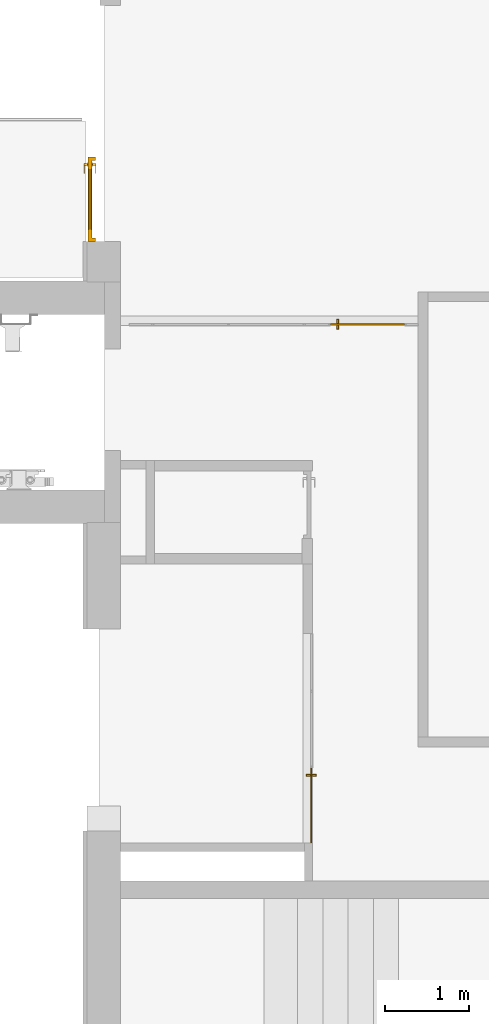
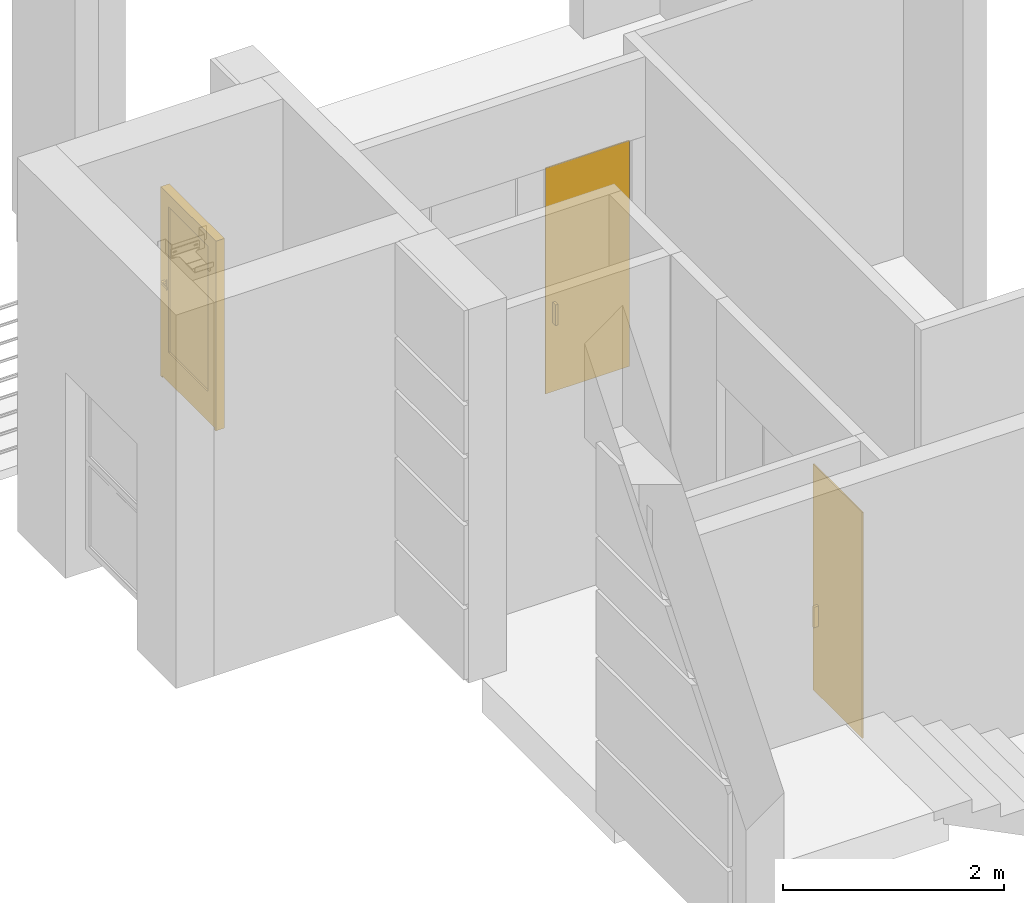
# One storey, part 8 of 15: 3 doors, 2 elements without a shape of their own.
"""IFC2X3 building model written with IfcOpenShell, lengths in millimetres."""

from ifc_helpers import new_model, entity, si_unit, converted_unit, derived_unit, direction, frame, frame_2d, origin, origin_2d_with_axis, place, context, subcontext, project, spatial, rectangle, extrude, faceted_brep, source, transform, mapped, material, material_list, type_object, type_shapes, element, aggregate, save


model = new_model("IFC2X3")

# Units and contexts
model_context = context("Model", 3, precision=0.01, world=origin(), true_north=direction((6.12303176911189e-17, 1.0)))
body_context = subcontext(model_context, "Body", "Model", "MODEL_VIEW")
ifc_project = project(units=[si_unit("LENGTHUNIT", "METRE", prefix="MILLI"), si_unit("AREAUNIT", "SQUARE_METRE"), si_unit("VOLUMEUNIT", "CUBIC_METRE"), converted_unit("PLANEANGLEUNIT", "DEGREE", entity("IfcRatioMeasure", 0.0174532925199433), si_unit("PLANEANGLEUNIT", "RADIAN"), dimensions=[0, 0, 0, 0, 0, 0, 0]), si_unit("MASSUNIT", "GRAM", prefix="KILO"), derived_unit("MASSDENSITYUNIT", [(si_unit("MASSUNIT", "GRAM", prefix="KILO"), 1), (si_unit("LENGTHUNIT", "METRE"), -3)]), si_unit("TIMEUNIT", "SECOND"), si_unit("FREQUENCYUNIT", "HERTZ"), si_unit("THERMODYNAMICTEMPERATUREUNIT", "DEGREE_CELSIUS"), derived_unit("THERMALTRANSMITTANCEUNIT", [(si_unit("MASSUNIT", "GRAM", prefix="KILO"), 1), (si_unit("THERMODYNAMICTEMPERATUREUNIT", "KELVIN"), -1), (si_unit("TIMEUNIT", "SECOND"), -3)]), derived_unit("VOLUMETRICFLOWRATEUNIT", [(si_unit("LENGTHUNIT", "METRE"), 3), (si_unit("TIMEUNIT", "SECOND"), -1)]), si_unit("ELECTRICCURRENTUNIT", "AMPERE"), si_unit("ELECTRICVOLTAGEUNIT", "VOLT"), si_unit("POWERUNIT", "WATT"), si_unit("FORCEUNIT", "NEWTON", prefix="KILO"), si_unit("ILLUMINANCEUNIT", "LUX"), si_unit("LUMINOUSFLUXUNIT", "LUMEN"), si_unit("LUMINOUSINTENSITYUNIT", "CANDELA"), derived_unit("USERDEFINED", [(si_unit("MASSUNIT", "GRAM", prefix="KILO"), -1), (si_unit("LENGTHUNIT", "METRE"), -2), (si_unit("TIMEUNIT", "SECOND"), 3), (si_unit("LUMINOUSFLUXUNIT", "LUMEN"), 1)]), derived_unit("LINEARVELOCITYUNIT", [(si_unit("LENGTHUNIT", "METRE"), 1), (si_unit("TIMEUNIT", "SECOND"), -1)]), si_unit("PRESSUREUNIT", "PASCAL"), derived_unit("USERDEFINED", [(si_unit("LENGTHUNIT", "METRE"), -2), (si_unit("MASSUNIT", "GRAM", prefix="KILO"), 1), (si_unit("TIMEUNIT", "SECOND"), -2)])], contexts=[model_context])

# Site, building, storey
site_placement = place(None, frame((-151.875543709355, 2715.0, 0.0)))
site = spatial("IfcSite", under=ifc_project, at=site_placement, Name="Surface", CompositionType="ELEMENT")
building_placement = place(site_placement, origin())
building = spatial("IfcBuilding", under=site, at=building_placement, CompositionType="ELEMENT")
storey_placement = place(building_placement, frame((0.0, 0.0, 7670.0)))
storey = spatial("IfcBuildingStorey", under=building, at=storey_placement, Name="uus 3 korrus", CompositionType="ELEMENT", Elevation=7670.00000000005)

# Door
ifc_material_1 = material(Name="_Alumiiniumprofiil - must")
ifc_material_2 = material(Name="Steel/Aluminium")
ifc_material_3 = material(Name="Glass")
ifc_material_list_1 = material_list([ifc_material_1, ifc_material_2, ifc_material_3])
ifc_material_list_2 = material_list([ifc_material_1, ifc_material_2, ifc_material_3])
door_style_1 = type_object("IfcDoorStyle", Name="1000x2100_klaasiga_välisuks", ConstructionType="NOTDEFINED", OperationType="FOLDING_TO_LEFT", ParameterTakesPrecedence=False, Sizeable=False, material=ifc_material_list_2)
shared_shape_1 = source(origin(), body_context, "Body", "Brep", [
    faceted_brep([(900.0, 42.0, 1112.5), (805.0, 42.0, 1112.5), (805.0, 37.0, 1112.5), (925.0, 37.0, 1112.5), (925.0, 80.0, 1112.5), (900.0, 80.0, 1112.5), (900.0, 42.0, 1087.5), (900.0, 80.0, 1087.5), (925.0, 80.0, 1087.5), (925.0, 37.0, 1087.5), (805.0, 37.0, 1087.5), (805.0, 42.0, 1087.5)], [[[0, 1, 2, 3, 4, 5]], [[6, 7, 8, 9, 10, 11]], [[5, 7, 6, 0]], [[4, 8, 7, 5]], [[3, 9, 8, 4]], [[2, 10, 9, 3]], [[1, 11, 10, 2]], [[0, 6, 11, 1]]]),
    faceted_brep([(887.500000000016, 80.0, 1137.5), (937.500000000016, 80.0, 1137.5), (937.500000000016, 82.0, 1137.5), (887.500000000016, 82.0, 1137.5), (887.500000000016, 80.0, 1017.5), (887.500000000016, 82.0, 1017.5), (937.500000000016, 82.0, 1017.5), (937.500000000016, 80.0, 1017.5)], [[[0, 1, 2, 3]], [[4, 5, 6, 7]], [[3, 5, 4, 0]], [[2, 6, 5, 3]], [[1, 7, 6, 2]], [[0, 4, 7, 1]]]),
    faceted_brep([(900.0, 172.0, 1112.5), (900.0, 134.0, 1112.5), (925.0, 134.0, 1112.5), (925.0, 177.0, 1112.5), (805.0, 177.0, 1112.5), (805.0, 172.0, 1112.5), (900.0, 172.0, 1087.5), (805.0, 172.0, 1087.5), (805.0, 177.0, 1087.5), (925.0, 177.0, 1087.5), (925.0, 134.0, 1087.5), (900.0, 134.0, 1087.5)], [[[0, 1, 2, 3, 4, 5]], [[6, 7, 8, 9, 10, 11]], [[1, 0, 6, 11]], [[2, 1, 11, 10]], [[3, 2, 10, 9]], [[4, 3, 9, 8]], [[5, 4, 8, 7]], [[0, 5, 7, 6]]]),
    faceted_brep([(887.500000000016, 134.0, 1137.5), (887.500000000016, 132.0, 1137.5), (937.500000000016, 132.0, 1137.5), (937.500000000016, 134.0, 1137.5), (887.500000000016, 134.0, 1017.5), (937.500000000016, 134.0, 1017.5), (937.500000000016, 132.0, 1017.5), (887.500000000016, 132.0, 1017.5)], [[[0, 1, 2, 3]], [[4, 5, 6, 7]], [[1, 0, 4, 7]], [[2, 1, 7, 6]], [[3, 2, 6, 5]], [[0, 3, 5, 4]]]),
    faceted_brep([(0.0, 42.0, 0.0), (0.0, 132.0, 0.0), (25.0, 132.0, 0.0), (25.0, 82.0, 0.0), (40.0, 82.0, 0.0), (40.0, 42.0, 0.0), (40.0, 42.0, 2060.0), (960.0, 42.0, 2060.0), (960.0, 42.0, 0.0), (1000.0, 42.0, 0.0), (1000.0, 42.0, 2100.0), (0.0, 42.0, 2100.0), (40.0, 82.0, 2060.0), (25.0, 82.0, 2075.0), (975.0, 82.0, 2075.0), (975.0, 82.0, 0.0), (960.0, 82.0, 0.0), (960.0, 82.0, 2060.0), (25.0, 132.0, 2075.0), (0.0, 132.0, 2100.0), (1000.0, 132.0, 2100.0), (1000.0, 132.0, 0.0), (975.0, 132.0, 0.0), (975.0, 132.0, 2075.0)], [[[0, 1, 2, 3, 4, 5]], [[5, 6, 7, 8, 9, 10, 11, 0]], [[4, 12, 6, 5]], [[3, 13, 14, 15, 16, 17, 12, 4]], [[2, 18, 13, 3]], [[1, 19, 20, 21, 22, 23, 18, 2]], [[0, 11, 19, 1]], [[9, 21, 20, 10]], [[8, 16, 15, 22, 21, 9]], [[7, 17, 16, 8]], [[14, 23, 22, 15]], [[6, 12, 17, 7]], [[13, 18, 23, 14]], [[10, 20, 19, 11]]]),
    faceted_brep([(140.0, 97.0, 350.0), (860.0, 97.0, 350.0), (860.0, 97.0, 1960.0), (140.0, 97.0, 1960.0), (140.0, 117.0, 350.0), (140.0, 117.0, 1960.0), (860.0, 117.0, 1960.0), (860.0, 117.0, 350.0)], [[[0, 1, 2, 3]], [[4, 5, 6, 7]], [[3, 5, 4, 0]], [[2, 6, 5, 3]], [[1, 7, 6, 2]], [[0, 4, 7, 1]]]),
    faceted_brep([(25.0, 82.0, 20.0), (975.0, 82.0, 20.0), (975.0, 82.0, 2075.0), (25.0, 82.0, 2075.0), (860.0, 82.0, 350.0), (140.0, 82.0, 350.0), (140.0, 82.0, 1960.0), (860.0, 82.0, 1960.0), (25.0, 132.0, 20.0), (25.0, 132.0, 2075.0), (975.0, 132.0, 2075.0), (975.0, 132.0, 20.0), (860.0, 132.0, 1960.0), (140.0, 132.0, 1960.0), (140.0, 132.0, 350.0), (860.0, 132.0, 350.0)], [[[0, 1, 2, 3], [4, 5, 6, 7]], [[8, 9, 10, 11], [12, 13, 14, 15]], [[3, 9, 8, 0]], [[2, 10, 9, 3]], [[1, 11, 10, 2]], [[0, 8, 11, 1]], [[12, 15, 4, 7]], [[15, 14, 5, 4]], [[14, 13, 6, 5]], [[7, 6, 13, 12]]]),
])
type_shapes(door_style_1, [shared_shape_1])
door_1_placement = place(storey_placement, frame((31744.6162682, 22609.9988387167, 0.0), z_axis=(0.0, 0.0, 1.0), x_axis=(0.0, 1.0, 0.0)))
element("IfcDoor", 1, at=door_1_placement, inside=storey, type_object=door_style_1, material=ifc_material_list_1, Name="Ühepoolsed:1000x2100_klaasiga_välisuks", ObjectType="1000x2100_klaasiga_välisuks", OverallHeight=2099.99999999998, OverallWidth=2240.0, context=body_context, shape_type="MappedRepresentation", body=[
    mapped(shared_shape_1, transform((0.0, 0.0, 0.0), scale=1.0)),
])

# Curtain wall, door
curtain_wall_type_1 = type_object("IfcCurtainWallType", Name="Curtain Wall:Klaassein KLS-12", PredefinedType="NOTDEFINED")
curtain_wall_1_placement = place(storey_placement, frame((0.0, 0.0, -7670.0)))
curtain_wall_1 = element("IfcCurtainWall", 2, at=curtain_wall_1_placement, inside=storey, type_object=curtain_wall_type_1, Name="Curtain Wall:Klaassein KLS-12", ObjectType="Curtain Wall:Klaassein KLS-12")
ifc_material_4 = material(Name="Aluminum")
ifc_material_list_3 = material_list([ifc_material_3, ifc_material_4])
ifc_material_list_4 = material_list([ifc_material_3, ifc_material_4])
door_style_2 = type_object("IfcDoorStyle", Name="Klaasuks", ConstructionType="NOTDEFINED", OperationType="NOTDEFINED", ParameterTakesPrecedence=False, Sizeable=False, material=ifc_material_list_4)
shared_shape_2 = source(origin(), body_context, "Body", "SweptSolid", [
    extrude(rectangle(XDim=890.000000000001, YDim=12.7000000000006, at=origin_2d_with_axis()), frame((0.0, -6.34999999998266, 0.0), z_axis=(0.0, 0.0, 1.0), x_axis=(-1.0, 0.0, 0.0)), (0.0, 0.0, 1.0), 2500.00000000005),
    extrude(rectangle(XDim=50.8, YDim=25.3999999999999, at=origin_2d_with_axis()), frame((-356.1, -38.099999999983, 762.0), z_axis=(0.0, 0.0, 1.0), x_axis=(0.0, 1.0, 0.0)), (0.0, 0.0, 1.0), 228.6),
    extrude(rectangle(XDim=50.8, YDim=25.3999999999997, at=frame_2d((0.0, 3.37507799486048e-14), x_axis=(1.0, 0.0))), frame((-356.100000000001, 25.4000000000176, 762.0), z_axis=(0.0, 0.0, 1.0), x_axis=(0.0, -1.0, 0.0)), (0.0, 0.0, 1.0), 228.6),
])
type_shapes(door_style_2, [shared_shape_2])
door_2_placement = place(curtain_wall_1_placement, frame((34270.014162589, 15915.0, 7670.0), z_axis=(0.0, 0.0, 1.0), x_axis=(0.0, -1.0, 0.0)))
door_2 = element("IfcDoor", 3, at=door_2_placement, type_object=door_style_2, material=ifc_material_list_3, Name="Door-Curtain-Wall-Single-Glass:Klaasuks", ObjectType="Klaasuks", OverallHeight=2500.00000000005, OverallWidth=890.000000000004, context=body_context, shape_type="MappedRepresentation", body=[
    mapped(shared_shape_2, transform((0.0, 0.0, 0.0), scale=1.0)),
])
aggregate(curtain_wall_1, [door_2])

curtain_wall_type_2 = type_object("IfcCurtainWallType", Name="Curtain Wall:Klaassein KLS-23", PredefinedType="NOTDEFINED")
curtain_wall_2_placement = place(storey_placement, frame((0.0, 0.0, -7670.0)))
curtain_wall_2 = element("IfcCurtainWall", 4, at=curtain_wall_2_placement, inside=storey, type_object=curtain_wall_type_2, Name="Curtain Wall:Klaassein KLS-23", ObjectType="Curtain Wall:Klaassein KLS-23")
ifc_material_list_5 = material_list([ifc_material_3, ifc_material_4])
ifc_material_list_6 = material_list([ifc_material_3, ifc_material_4])
door_style_3 = type_object("IfcDoorStyle", Name="Klaasuks", ConstructionType="NOTDEFINED", OperationType="NOTDEFINED", ParameterTakesPrecedence=False, Sizeable=False, material=ifc_material_list_6)
shared_shape_3 = source(origin(), body_context, "Body", "SweptSolid", [
    extrude(rectangle(XDim=12.7000000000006, YDim=879.999999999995, at=origin_2d_with_axis()), frame((0.0, 6.34999999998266, 0.0), z_axis=(0.0, 0.0, 1.0), x_axis=(0.0, 1.0, 0.0)), (0.0, 0.0, 1.0), 2500.0),
    extrude(rectangle(XDim=25.3999999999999, YDim=50.8, at=frame_2d((0.0, -3.5527136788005e-15), x_axis=(1.0, 0.0))), frame((-351.099999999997, 38.099999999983, 762.0), z_axis=(0.0, 0.0, 1.0), x_axis=(-1.0, 0.0, 0.0)), (0.0, 0.0, 1.0), 228.6),
    extrude(rectangle(XDim=25.3999999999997, YDim=50.8, at=frame_2d((3.37507799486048e-14, -1.77635683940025e-15), x_axis=(1.0, 0.0))), frame((-351.099999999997, -25.4000000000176, 762.0)), (0.0, 0.0, 1.0), 228.6),
])
type_shapes(door_style_3, [shared_shape_3])
door_3_placement = place(curtain_wall_2_placement, frame((34931.6162681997, 21619.7725567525, 7670.0)))
door_3 = element("IfcDoor", 5, at=door_3_placement, type_object=door_style_3, material=ifc_material_list_5, Name="Door-Curtain-Wall-Single-Glass:Klaasuks", ObjectType="Klaasuks", OverallHeight=2500.0, OverallWidth=879.999999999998, context=body_context, shape_type="MappedRepresentation", body=[
    mapped(shared_shape_3, transform((0.0, 0.0, 0.0), scale=1.0)),
])
aggregate(curtain_wall_2, [door_3])

save(model, "model.ifc")
